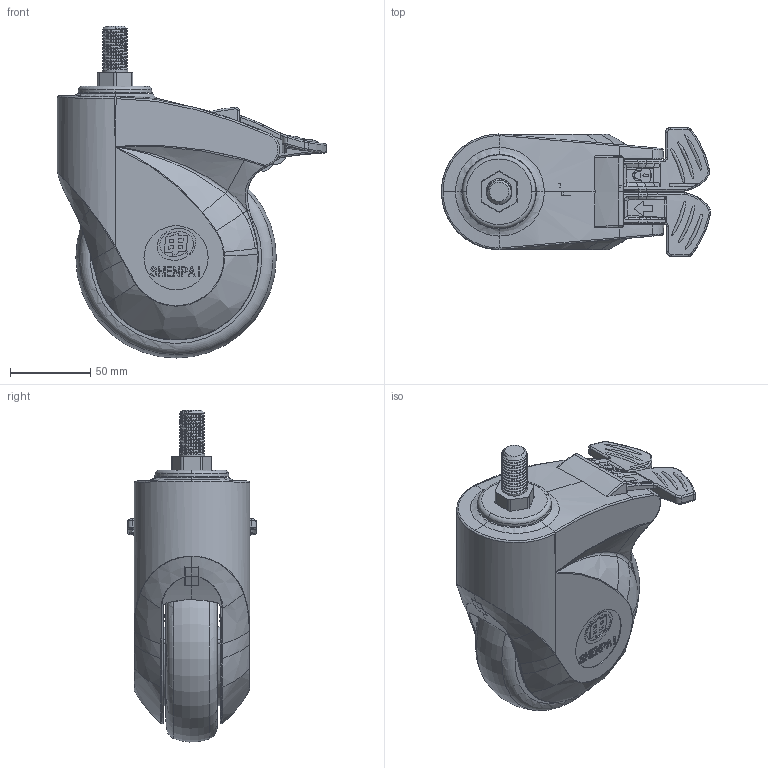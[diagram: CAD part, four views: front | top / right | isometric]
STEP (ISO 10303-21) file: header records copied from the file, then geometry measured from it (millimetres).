
FILE_DESCRIPTION(/* description */ (''),/* implementation_level */ '2;1');
FILE_NAME(/* name */ '80C18_5_F.stp',/* time_stamp */ '2022-10-17T15:28:15+08:00',/* author */ (''),/* organization */ (''),/* preprocessor_version */ 'ST-DEVELOPER v14',/* originating_system */ 'SIEMENS PLM Software NX 8.0',/* authorisation */ '');
FILE_SCHEMA (('AUTOMOTIVE_DESIGN { 1 0 10303 214 3 1 1 1 }'));
Products named in the file (1): 80C18_5_F
Bounding box: 167.68 x 80.2 x 206.87 mm (x, y, z)
Volume: 492040.8 mm3; surface area: 233459.4 mm2
Topology: 1 solids, 12 shells, 2973 faces, 8262 edges, 5376 vertices
Faces by surface type: plane 1299, cylinder 843, bspline 543, torus 206, cone 76, sphere 6
Full cylindrical faces by diameter (mm): 1.7 x1, 1.8 x1, 2 x2, 2.7 x2, 4 x13, 4.2 x5, 4.6 x1, 5 x5, 5.1 x2, 5.5 x2, 6 x5, 7.3 x2, 8 x4, 9 x1, 9.1 x1, 10 x3, 10.2 x2, 15 x1, 15.2 x2, 16 x1, 21.6 x4, 24 x2, 26 x1, 28 x1, 29.4 x4, 32 x2, 35 x1, 35.5 x2, 40 x2, 40.5 x1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
Entity records: 131223 total; most frequent: CARTESIAN_POINT 62647, ORIENTED_EDGE 16156, DIRECTION 11581, EDGE_CURVE 8078, VERTEX_POINT 5323, AXIS2_PLACEMENT_3D 4141, LINE 3299, VECTOR 3299
